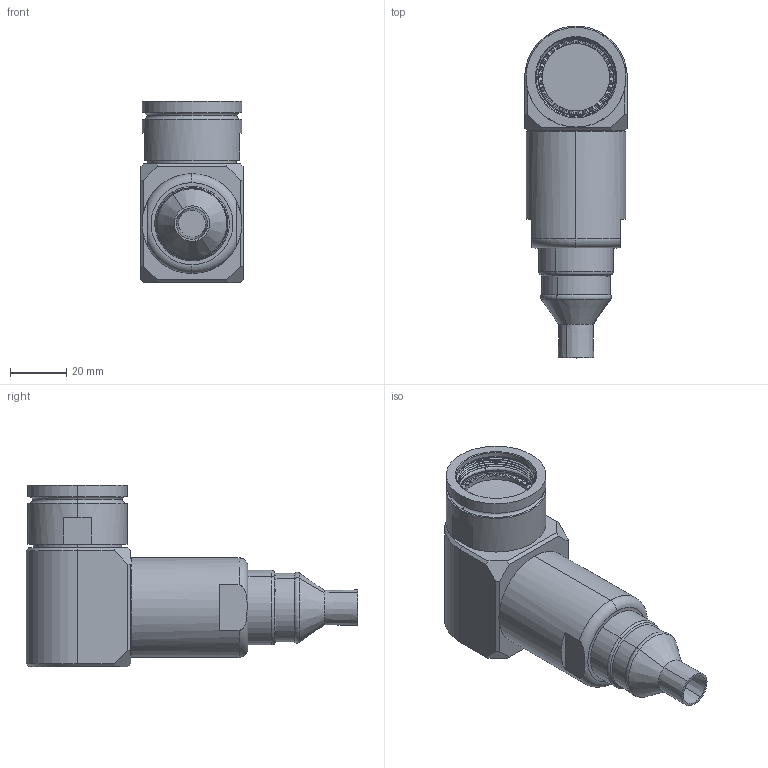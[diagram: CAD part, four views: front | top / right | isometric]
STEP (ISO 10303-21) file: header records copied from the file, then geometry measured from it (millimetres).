
FILE_DESCRIPTION (( 'STEP AP214' ), '1' );
FILE_NAME ('Q38EBSHELL-90X-19-XXXX-HX.STEP', '2025-09-19T15:39:44', ( '' ), ( '' ), 'SwSTEP 2.0', 'SolidWorks 2024', '' );
FILE_SCHEMA (( 'AUTOMOTIVE_DESIGN' ));
Length unit declared in the file: millimetre
Products named in the file (1): Q38EBSHELL-90X-19-XXXX-HX
Bounding box: 36.4 x 117.69 x 64.41 mm (x, y, z)
Volume: 115744.2 mm3; surface area: 22142.1 mm2
Topology: 2 solids, 4 shells, 266 faces, 695 edges, 452 vertices
Faces by surface type: plane 173, cylinder 45, cone 25, torus 14, bspline 9
Entity records: 10849 total; most frequent: CARTESIAN_POINT 4570, ORIENTED_EDGE 1390, DIRECTION 1292, EDGE_CURVE 695, AXIS2_PLACEMENT_3D 518, VERTEX_POINT 452, EDGE_LOOP 283, ADVANCED_FACE 266
